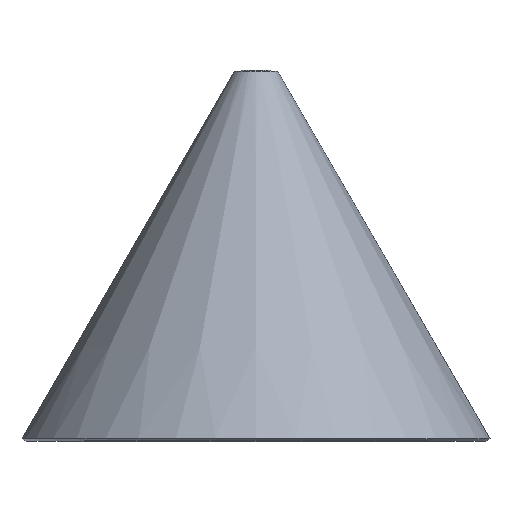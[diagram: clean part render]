
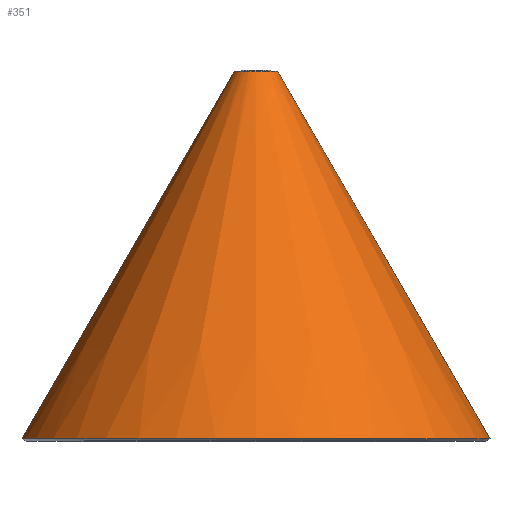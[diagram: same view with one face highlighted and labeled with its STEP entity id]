
A CAD part, top view. The second image highlights one B-rep face of the part: STEP entity #351.
In plain terms, the highlighted conical face has half-angle 30 degrees and reference radius 39.374 mm.
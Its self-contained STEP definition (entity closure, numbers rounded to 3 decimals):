
#163=CARTESIAN_POINT('',(0.,164.942,0.));
#164=DIRECTION('',(0.,1.,0.));
#165=DIRECTION('',(-1.,0.,0.));
#166=AXIS2_PLACEMENT_3D('',#163,#164,#165);
#173=DIRECTION('',(-0.5,0.866,0.));
#174=VECTOR('',#173,130.77);
#175=CARTESIAN_POINT('',(72.067,51.692,0.));
#176=LINE('',#175,#174);
#223=CARTESIAN_POINT('',(0.,51.692,0.));
#224=DIRECTION('',(0.,1.,0.));
#225=DIRECTION('',(-1.,0.,0.));
#226=AXIS2_PLACEMENT_3D('',#223,#224,#225);
#228=DIRECTION('',(0.5,0.866,0.));
#229=VECTOR('',#228,130.77);
#230=CARTESIAN_POINT('',(-72.067,51.692,0.));
#231=LINE('',#230,#229);
#232=CARTESIAN_POINT('',(6.682,164.942,0.));
#233=CARTESIAN_POINT('',(-6.682,164.942,0.));
#234=VERTEX_POINT('',#232);
#235=VERTEX_POINT('',#233);
#248=CARTESIAN_POINT('',(72.067,51.692,0.));
#249=CARTESIAN_POINT('',(-72.067,51.692,0.));
#250=VERTEX_POINT('',#248);
#251=VERTEX_POINT('',#249);
#340=CARTESIAN_POINT('',(0.,108.317,0.));
#341=DIRECTION('',(0.,-1.,0.));
#342=DIRECTION('',(-1.,0.,0.));
#343=AXIS2_PLACEMENT_3D('',#340,#341,#342);
#344=CONICAL_SURFACE('',#343,39.375,30.);
#345=ORIENTED_EDGE('',*,*,#334,.F.);
#346=ORIENTED_EDGE('',*,*,#274,.T.);
#347=ORIENTED_EDGE('',*,*,#259,.T.);
#348=ORIENTED_EDGE('',*,*,#271,.F.);
#349=EDGE_LOOP('',(#345,#346,#347,#348));
#350=FACE_OUTER_BOUND('',#349,.F.);
#351=ADVANCED_FACE('',(#350),#344,.T.);
#167=CIRCLE('',#166,6.682);
#227=CIRCLE('',#226,72.067);
#259=EDGE_CURVE('',#235,#234,#167,.T.);
#271=EDGE_CURVE('',#250,#234,#176,.T.);
#274=EDGE_CURVE('',#251,#235,#231,.T.);
#334=EDGE_CURVE('',#251,#250,#227,.T.);
